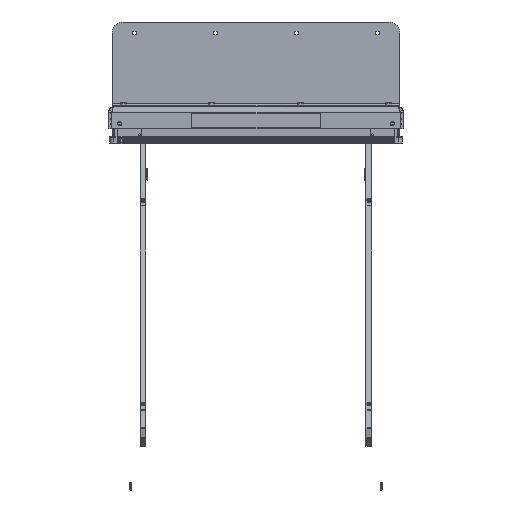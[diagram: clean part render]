
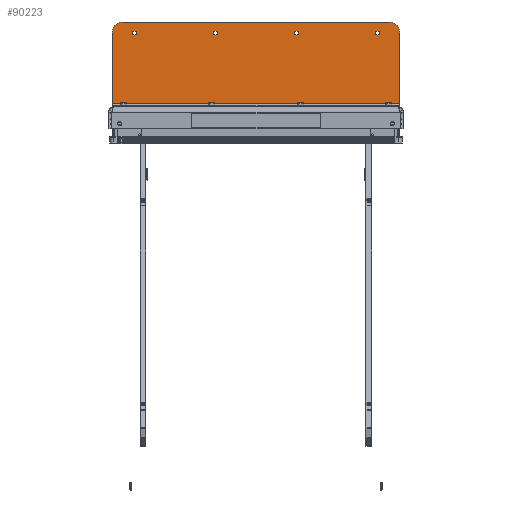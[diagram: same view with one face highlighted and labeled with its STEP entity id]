
A CAD part, left-side view. The second image highlights one B-rep face of the part: STEP entity #90223.
In plain terms, the highlighted planar face has unit normal (-1, 0, 0).
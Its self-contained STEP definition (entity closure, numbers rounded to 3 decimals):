
#8118=LINE('',#160915,#15842);
#8140=LINE('',#160963,#15864);
#8141=LINE('',#160967,#15865);
#8144=LINE('',#160972,#15868);
#8146=LINE('',#160976,#15870);
#8148=LINE('',#160979,#15872);
#8149=LINE('',#160983,#15873);
#8152=LINE('',#160988,#15876);
#8154=LINE('',#160992,#15878);
#8156=LINE('',#160995,#15880);
#8157=LINE('',#160999,#15881);
#8160=LINE('',#161004,#15884);
#8162=LINE('',#161008,#15886);
#8164=LINE('',#161011,#15888);
#8165=LINE('',#161015,#15889);
#8168=LINE('',#161020,#15892);
#8170=LINE('',#161024,#15894);
#8172=LINE('',#161027,#15896);
#8176=LINE('',#161041,#15900);
#8177=LINE('',#161043,#15901);
#15842=VECTOR('',#114976,72.);
#15864=VECTOR('',#115008,19.2);
#15865=VECTOR('',#115011,1.02);
#15868=VECTOR('',#115016,1.02);
#15870=VECTOR('',#115020,1.02);
#15872=VECTOR('',#115024,1.02);
#15873=VECTOR('',#115027,1.02);
#15876=VECTOR('',#115032,1.02);
#15878=VECTOR('',#115036,1.02);
#15880=VECTOR('',#115040,1.02);
#15881=VECTOR('',#115043,1.02);
#15884=VECTOR('',#115048,1.02);
#15886=VECTOR('',#115052,1.02);
#15888=VECTOR('',#115056,1.02);
#15889=VECTOR('',#115059,1.02);
#15892=VECTOR('',#115064,1.02);
#15894=VECTOR('',#115068,1.02);
#15896=VECTOR('',#115072,1.02);
#15900=VECTOR('',#115094,78.);
#15901=VECTOR('',#115097,19.2);
#19708=PLANE('',#96623);
#20682=FACE_BOUND('',#29598,.T.);
#20683=FACE_BOUND('',#29599,.T.);
#20684=FACE_BOUND('',#29600,.T.);
#20685=FACE_BOUND('',#29601,.T.);
#24496=FACE_OUTER_BOUND('',#29597,.T.);
#29597=EDGE_LOOP('',(#74232,#74233,#74234,#74235,#74236,#74237));
#29598=EDGE_LOOP('',(#74238,#74239,#74240,#74241));
#29599=EDGE_LOOP('',(#74242,#74243,#74244,#74245));
#29600=EDGE_LOOP('',(#74246,#74247,#74248,#74249));
#29601=EDGE_LOOP('',(#74250,#74251,#74252,#74253));
#33316=CIRCLE('',#96589,3.);
#33319=CIRCLE('',#96595,3.);
#40683=VERTEX_POINT('',#160902);
#40684=VERTEX_POINT('',#160903);
#40688=VERTEX_POINT('',#160913);
#40708=VERTEX_POINT('',#160957);
#40709=VERTEX_POINT('',#160961);
#40710=VERTEX_POINT('',#160965);
#40711=VERTEX_POINT('',#160966);
#40712=VERTEX_POINT('',#160971);
#40713=VERTEX_POINT('',#160975);
#40714=VERTEX_POINT('',#160981);
#40715=VERTEX_POINT('',#160982);
#40716=VERTEX_POINT('',#160987);
#40717=VERTEX_POINT('',#160991);
#40718=VERTEX_POINT('',#160997);
#40719=VERTEX_POINT('',#160998);
#40720=VERTEX_POINT('',#161003);
#40721=VERTEX_POINT('',#161007);
#40722=VERTEX_POINT('',#161013);
#40723=VERTEX_POINT('',#161014);
#40724=VERTEX_POINT('',#161019);
#40725=VERTEX_POINT('',#161023);
#40726=VERTEX_POINT('',#161037);
#52215=EDGE_CURVE('',#40683,#40684,#33316,.T.);
#52221=EDGE_CURVE('',#40688,#40683,#8118,.T.);
#52242=EDGE_CURVE('',#40708,#40688,#33319,.T.);
#52245=EDGE_CURVE('',#40709,#40708,#8140,.T.);
#52246=EDGE_CURVE('',#40710,#40711,#8141,.T.);
#52249=EDGE_CURVE('',#40711,#40712,#8144,.T.);
#52251=EDGE_CURVE('',#40712,#40713,#8146,.T.);
#52253=EDGE_CURVE('',#40713,#40710,#8148,.T.);
#52254=EDGE_CURVE('',#40714,#40715,#8149,.T.);
#52257=EDGE_CURVE('',#40715,#40716,#8152,.T.);
#52259=EDGE_CURVE('',#40716,#40717,#8154,.T.);
#52261=EDGE_CURVE('',#40717,#40714,#8156,.T.);
#52262=EDGE_CURVE('',#40718,#40719,#8157,.T.);
#52265=EDGE_CURVE('',#40719,#40720,#8160,.T.);
#52267=EDGE_CURVE('',#40720,#40721,#8162,.T.);
#52269=EDGE_CURVE('',#40721,#40718,#8164,.T.);
#52270=EDGE_CURVE('',#40722,#40723,#8165,.T.);
#52273=EDGE_CURVE('',#40723,#40724,#8168,.T.);
#52275=EDGE_CURVE('',#40724,#40725,#8170,.T.);
#52277=EDGE_CURVE('',#40725,#40722,#8172,.T.);
#52285=EDGE_CURVE('',#40709,#40726,#8176,.T.);
#52286=EDGE_CURVE('',#40684,#40726,#8177,.T.);
#74232=ORIENTED_EDGE('',*,*,#52215,.F.);
#74233=ORIENTED_EDGE('',*,*,#52221,.F.);
#74234=ORIENTED_EDGE('',*,*,#52242,.F.);
#74235=ORIENTED_EDGE('',*,*,#52245,.F.);
#74236=ORIENTED_EDGE('',*,*,#52285,.T.);
#74237=ORIENTED_EDGE('',*,*,#52286,.F.);
#74238=ORIENTED_EDGE('',*,*,#52246,.T.);
#74239=ORIENTED_EDGE('',*,*,#52249,.T.);
#74240=ORIENTED_EDGE('',*,*,#52251,.T.);
#74241=ORIENTED_EDGE('',*,*,#52253,.T.);
#74242=ORIENTED_EDGE('',*,*,#52254,.T.);
#74243=ORIENTED_EDGE('',*,*,#52257,.T.);
#74244=ORIENTED_EDGE('',*,*,#52259,.T.);
#74245=ORIENTED_EDGE('',*,*,#52261,.T.);
#74246=ORIENTED_EDGE('',*,*,#52262,.T.);
#74247=ORIENTED_EDGE('',*,*,#52265,.T.);
#74248=ORIENTED_EDGE('',*,*,#52267,.T.);
#74249=ORIENTED_EDGE('',*,*,#52269,.T.);
#74250=ORIENTED_EDGE('',*,*,#52270,.T.);
#74251=ORIENTED_EDGE('',*,*,#52273,.T.);
#74252=ORIENTED_EDGE('',*,*,#52275,.T.);
#74253=ORIENTED_EDGE('',*,*,#52277,.T.);
#90223=ADVANCED_FACE('',(#24496,#20682,#20683,#20684,#20685),#19708,.T.);
#96589=AXIS2_PLACEMENT_3D('',#160904,#114966,#114967);
#96595=AXIS2_PLACEMENT_3D('',#160958,#115002,#115003);
#96623=AXIS2_PLACEMENT_3D('',#161044,#115098,#115099);
#114966=DIRECTION('center_axis',(1.,0.,0.));
#114967=DIRECTION('ref_axis',(0.,-0.707,0.707));
#114976=DIRECTION('',(0.,-1.,0.));
#115002=DIRECTION('center_axis',(1.,0.,0.));
#115003=DIRECTION('ref_axis',(0.,0.707,0.707));
#115008=DIRECTION('',(0.,0.,1.));
#115011=DIRECTION('',(0.,0.,-1.));
#115016=DIRECTION('',(0.,1.,0.));
#115020=DIRECTION('',(0.,0.,1.));
#115024=DIRECTION('',(0.,-1.,0.));
#115027=DIRECTION('',(0.,0.,-1.));
#115032=DIRECTION('',(0.,1.,0.));
#115036=DIRECTION('',(0.,0.,1.));
#115040=DIRECTION('',(0.,-1.,0.));
#115043=DIRECTION('',(0.,0.,-1.));
#115048=DIRECTION('',(0.,1.,0.));
#115052=DIRECTION('',(0.,0.,1.));
#115056=DIRECTION('',(0.,-1.,0.));
#115059=DIRECTION('',(0.,0.,-1.));
#115064=DIRECTION('',(0.,1.,0.));
#115068=DIRECTION('',(0.,0.,1.));
#115072=DIRECTION('',(0.,-1.,0.));
#115094=DIRECTION('',(0.,-1.,0.));
#115097=DIRECTION('',(0.,0.,-1.));
#115098=DIRECTION('center_axis',(-1.,0.,0.));
#115099=DIRECTION('ref_axis',(0.,-1.,0.));
#160902=CARTESIAN_POINT('',(-77.122,-36.,129.6));
#160903=CARTESIAN_POINT('',(-77.122,-39.,126.6));
#160904=CARTESIAN_POINT('Origin',(-77.122,-36.,126.6));
#160913=CARTESIAN_POINT('',(-77.122,36.,129.6));
#160915=CARTESIAN_POINT('',(-77.122,-39.,129.6));
#160957=CARTESIAN_POINT('',(-77.122,39.,126.6));
#160958=CARTESIAN_POINT('Origin',(-77.122,36.,126.6));
#160961=CARTESIAN_POINT('',(-77.122,39.,107.4));
#160963=CARTESIAN_POINT('',(-77.122,39.,129.6));
#160965=CARTESIAN_POINT('',(-77.122,32.49,127.1));
#160966=CARTESIAN_POINT('',(-77.122,32.49,126.08));
#160967=CARTESIAN_POINT('',(-77.122,32.49,122.6));
#160971=CARTESIAN_POINT('',(-77.122,33.51,126.08));
#160972=CARTESIAN_POINT('',(-77.122,16.245,126.08));
#160975=CARTESIAN_POINT('',(-77.122,33.51,127.1));
#160976=CARTESIAN_POINT('',(-77.122,33.51,122.09));
#160979=CARTESIAN_POINT('',(-77.122,16.755,127.1));
#160981=CARTESIAN_POINT('',(-77.122,10.49,127.1));
#160982=CARTESIAN_POINT('',(-77.122,10.49,126.08));
#160983=CARTESIAN_POINT('',(-77.122,10.49,122.6));
#160987=CARTESIAN_POINT('',(-77.122,11.51,126.08));
#160988=CARTESIAN_POINT('',(-77.122,5.245,126.08));
#160991=CARTESIAN_POINT('',(-77.122,11.51,127.1));
#160992=CARTESIAN_POINT('',(-77.122,11.51,122.09));
#160995=CARTESIAN_POINT('',(-77.122,5.755,127.1));
#160997=CARTESIAN_POINT('',(-77.122,-11.51,127.1));
#160998=CARTESIAN_POINT('',(-77.122,-11.51,126.08));
#160999=CARTESIAN_POINT('',(-77.122,-11.51,122.6));
#161003=CARTESIAN_POINT('',(-77.122,-10.49,126.08));
#161004=CARTESIAN_POINT('',(-77.122,-5.755,126.08));
#161007=CARTESIAN_POINT('',(-77.122,-10.49,127.1));
#161008=CARTESIAN_POINT('',(-77.122,-10.49,122.09));
#161011=CARTESIAN_POINT('',(-77.122,-5.245,127.1));
#161013=CARTESIAN_POINT('',(-77.122,-33.51,127.1));
#161014=CARTESIAN_POINT('',(-77.122,-33.51,126.08));
#161015=CARTESIAN_POINT('',(-77.122,-33.51,122.6));
#161019=CARTESIAN_POINT('',(-77.122,-32.49,126.08));
#161020=CARTESIAN_POINT('',(-77.122,-16.755,126.08));
#161023=CARTESIAN_POINT('',(-77.122,-32.49,127.1));
#161024=CARTESIAN_POINT('',(-77.122,-32.49,122.09));
#161027=CARTESIAN_POINT('',(-77.122,-16.245,127.1));
#161037=CARTESIAN_POINT('',(-77.122,-39.,107.4));
#161041=CARTESIAN_POINT('',(-77.122,-19.5,107.4));
#161043=CARTESIAN_POINT('',(-77.122,-39.,106.6));
#161044=CARTESIAN_POINT('Origin',(-77.122,0.,
118.1));
